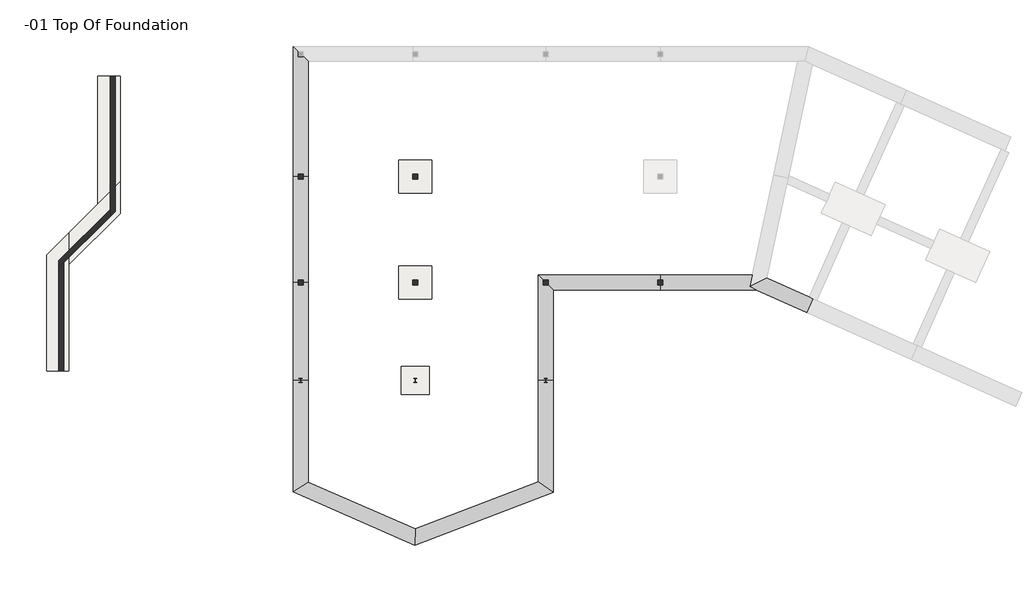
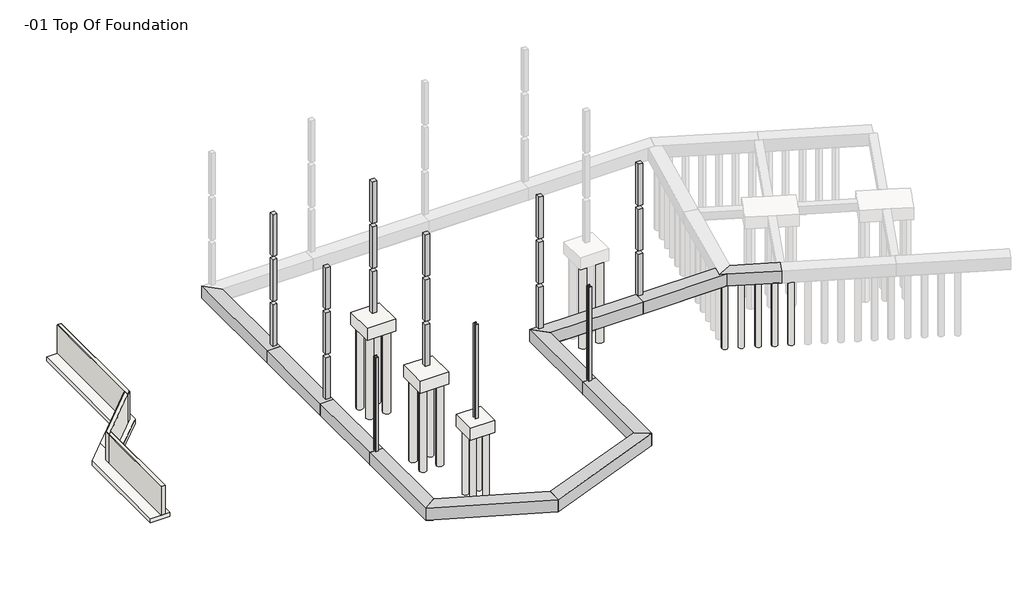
# One storey, part 1 of 6: 22 slabs, 11 beams, 9 columns, 3 footings, 3 walls.
"""IFC4 building model written with IfcOpenShell, lengths in millimetres."""

from ifc_helpers import new_model, si_unit, point, frame, frame_2d, origin, origin_with_axes, place, context, project, spatial, polyline, circle_curve, trimmed, segment, composite_curve, outline, extrude, faceted_brep, transform, mapped, element, save
from ifc_brep_helpers import plane_surface, cylinder_surface, revolved_surface, advanced_brep
from components import w_shapes_column_w10x33_27927fa3

model = new_model("IFC4")

# Units and contexts
model_context = context("Model", 3, world=origin())
ifc_project = project(units=[si_unit("LENGTHUNIT", "METRE", prefix="MILLI")], contexts=[model_context])

# Site, building, storey
site = spatial("IfcSite", under=ifc_project)
building = spatial("IfcBuilding", under=site)
storey = spatial("IfcBuildingStorey", under=building, Name="-01 Top Of Foundation", Elevation=-304.8)

# Beams
placement = place(None, origin())
element("IfcBeam", 1, ObjectType="Ring Beam : 16 x 32", at=placement, inside=storey, context=model_context, shape_type="AdvancedBrep", body=[
    advanced_brep(
    [(28526.2478532, -13729.7933987, -304.8), (31118.4126766, -14894.1882927, -304.8), (31350.1102376, -14998.2663415, -304.8), (31350.1102376, -14998.2663415, -1193.8), (28526.2478532, -13729.7933987, -1193.8), (27477.2581969, -14261.0066013, -304.8), (27903.7815965, -14452.6, -304.8), (30975.429262, -15832.377561, -304.8), (31339.7024327, -15021.4360976, -1219.2), (28497.1092516, -13744.549321, -1219.2), (30985.8370668, -15809.2078049, -1219.2), (27909.2244536, -14427.2, -1219.2), (27506.3967985, -14246.250679, -1219.2), (27822.9184202, -14085.9626691, -1219.2), (28185.4716207, -13902.3640554, -1219.2), (28732.559032, -14413.6326829, -1219.2), (29138.959032, -14413.6326829, -1219.2), (29663.4968045, -14831.8653659, -1219.2), (30069.8968045, -14831.8653659, -1219.2), (30594.4345769, -15250.0980488, -1219.2), (31000.8345769, -15250.0980488, -1219.2), (30975.429262, -15832.377561, -1193.8), (27903.7815965, -14452.6, -1193.8), (27477.2581969, -14261.0066013, -1193.8), (29138.959032, -14413.6326829, -1066.8), (28732.559032, -14413.6326829, -1066.8), (30069.8968045, -14831.8653659, -1066.8), (29663.4968045, -14831.8653659, -1066.8), (31000.8345769, -15250.0980488, -1066.8), (30594.4345769, -15250.0980488, -1066.8)],
    [
        (0, 1),
        (1, 2),
        (2, 3),
        (3, 4),
        (4, 0),
        (0, 5),
        (5, 6),
        (6, 7),
        (7, 2),
        (3, 8),
        (8, 9),
        (9, 4),
        (8, 10),
        (10, 11),
        (11, 12),
        (12, 13),
        (13, 14),
        (14, 9),
        (15, 16, circle_curve(frame((28935.759032, -14413.6326829, -1219.2), z_axis=(0.0, 0.0, 1.0), x_axis=(1.0, 0.0, 0.0)), 203.2)),
        (16, 15, circle_curve(frame((28935.759032, -14413.6326829, -1219.2), z_axis=(0.0, 0.0, 1.0), x_axis=(1.0, 0.0, 0.0)), 203.2)),
        (17, 18, circle_curve(frame((29866.6968045, -14831.8653659, -1219.2), z_axis=(0.0, 0.0, 1.0), x_axis=(1.0, 0.0, 0.0)), 203.2)),
        (18, 17, circle_curve(frame((29866.6968045, -14831.8653659, -1219.2), z_axis=(0.0, 0.0, 1.0), x_axis=(1.0, 0.0, 0.0)), 203.2)),
        (19, 20, circle_curve(frame((30797.6345769, -15250.0980488, -1219.2), z_axis=(0.0, 0.0, 1.0), x_axis=(1.0, 0.0, 0.0)), 203.2)),
        (20, 19, circle_curve(frame((30797.6345769, -15250.0980488, -1219.2), z_axis=(0.0, 0.0, 1.0), x_axis=(1.0, 0.0, 0.0)), 203.2)),
        (10, 21),
        (21, 22),
        (22, 23),
        (23, 12),
        (5, 23),
        (21, 7),
        (24, 25, circle_curve(frame((28935.759032, -14413.6326829, -1066.8), z_axis=(0.0, 0.0, -1.0), x_axis=(1.0, 0.0, 0.0)), 203.2)),
        (25, 24, circle_curve(frame((28935.759032, -14413.6326829, -1066.8), z_axis=(0.0, 0.0, -1.0), x_axis=(1.0, 0.0, 0.0)), 203.2)),
        (24, 16),
        (15, 25),
        (26, 27, circle_curve(frame((29866.6968045, -14831.8653659, -1066.8), z_axis=(0.0, 0.0, -1.0), x_axis=(1.0, 0.0, 0.0)), 203.2)),
        (27, 26, circle_curve(frame((29866.6968045, -14831.8653659, -1066.8), z_axis=(0.0, 0.0, -1.0), x_axis=(1.0, 0.0, 0.0)), 203.2)),
        (26, 18),
        (17, 27),
        (28, 29, circle_curve(frame((30797.6345769, -15250.0980488, -1066.8), z_axis=(0.0, 0.0, -1.0), x_axis=(1.0, 0.0, 0.0)), 203.2)),
        (29, 28, circle_curve(frame((30797.6345769, -15250.0980488, -1066.8), z_axis=(0.0, 0.0, -1.0), x_axis=(1.0, 0.0, 0.0)), 203.2)),
        (28, 20),
        (19, 29),
    ],
    [
        plane_surface(frame((28608.4763729, -13766.7302739, -304.8), z_axis=(0.40975609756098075, 0.9121951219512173, 0.0), x_axis=(0.9121951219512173, -0.40975609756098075, 0.0))),
        plane_surface(frame((28233.7953973, -14600.8414934, -304.8), z_axis=(0.0, 0.0, 1.0000000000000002), x_axis=(0.9121951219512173, -0.40975609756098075, 0.0))),
        plane_surface(frame((28608.4763729, -13766.7302739, -1193.8), z_axis=(0.28974131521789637, 0.645019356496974, -0.7071067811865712), x_axis=(0.9121951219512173, -0.40975609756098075, 0.0))),
        plane_surface(frame((28598.068568, -13789.90003, -1219.2), z_axis=(0.0, 0.0, -1.0000000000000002), x_axis=(0.9121951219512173, -0.40975609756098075, 0.0))),
        plane_surface(frame((28244.2032022, -14577.6717373, -1219.2), z_axis=(-0.2897413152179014, -0.6450193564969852, -0.7071067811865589), x_axis=(0.9121951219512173, -0.40975609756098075, 0.0))),
        plane_surface(frame((28233.7953973, -14600.8414934, -1193.8), z_axis=(-0.40975609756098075, -0.9121951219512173, 0.0), x_axis=(0.9121951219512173, -0.40975609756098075, 0.0))),
        plane_surface(frame((31162.7697498, -15415.3219512, -304.8), z_axis=(0.9121951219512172, -0.4097560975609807, 0.0), x_axis=(0.4097560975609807, 0.9121951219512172, 0.0))),
        plane_surface(frame((28526.2478532, -13729.7933987, -304.8), z_axis=(-0.451778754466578, 0.8921300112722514, 0.0), x_axis=(0.8921300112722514, 0.451778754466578, 0.0))),
        plane_surface(frame((29138.959032, -14413.6326829, -1066.8), z_axis=(0.0, 0.0, -1.0), x_axis=(0.0, 1.0, 0.0))),
        revolved_surface(polyline([(29138.959032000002, -14413.6326829, -1066.8000000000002), (29138.959032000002, -14413.6326829, -1219.1999999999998)]), (28935.759032, -14413.6326829, -6096.0), (0.0, 0.0, 1.0)),
        plane_surface(frame((30069.8968045, -14831.8653659, -1066.8), z_axis=(0.0, 0.0, -1.0), x_axis=(0.0, 1.0, 0.0))),
        revolved_surface(polyline([(30069.8968045, -14831.8653659, -1066.8000000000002), (30069.8968045, -14831.8653659, -1219.1999999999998)]), (29866.6968045, -14831.8653659, -6096.0), (0.0, 0.0, 1.0)),
        plane_surface(frame((31000.8345769, -15250.0980488, -1066.8), z_axis=(0.0, 0.0, -1.0), x_axis=(0.0, 1.0, 0.0))),
        revolved_surface(polyline([(31000.8345769, -15250.0980488, -1066.8000000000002), (31000.8345769, -15250.0980488, -1219.1999999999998)]), (30797.6345769, -15250.0980488, -6096.0), (0.0, 0.0, 1.0)),
    ],
    [
        (0, [[1, 2, 3, 4, 5]]),
        (1, [[-2, -1, 6, 7, 8, 9]]),
        (2, [[-4, 10, 11, 12]]),
        (3, [[-11, 13, 14, 15, 16, 17, 18], [19, 20], [21, 22], [23, 24]]),
        (4, [[-15, -14, 25, 26, 27, 28]]),
        (5, [[-8, -7, 29, -27, -26, 30]]),
        (6, [[-30, -25, -13, -10, -3, -9]]),
        (7, [[-6, -5, -12, -18, -17, -16, -28, -29]]),
        (8, [[31, 32]]),
        (9, [[-31, 33, -19, 34]]),
        (9, [[-32, -34, -20, -33]]),
        (10, [[35, 36]]),
        (11, [[-35, 37, -21, 38]]),
        (11, [[-36, -38, -22, -37]]),
        (12, [[39, 40]]),
        (13, [[-39, 41, -23, 42]]),
        (13, [[-40, -42, -24, -41]]),
    ],
),
])
element("IfcBeam", 2, ObjectType="Ring Beam : 16 x 32", at=placement, inside=storey, context=model_context, shape_type="Brep", body=[
    faceted_brep([(27632.1453257, -13538.2, -304.8), (27632.1453257, -13538.2, -1193.8), (22009.1, -13538.2, -1193.8), (22009.1, -13538.2, -304.8), (27477.2581969, -14261.0066013, -304.8), (27477.2581969, -14261.0066013, -1193.8), (22009.1, -14452.6, -304.8), (27903.7815965, -14452.6, -304.8), (27652.6790868, -13563.6, -1219.2), (22009.1, -13563.6, -1219.2), (27506.3967985, -14246.250679, -1219.2), (27909.2244536, -14427.2, -1219.2), (22009.1, -14427.2, -1219.2), (22009.1, -14452.6, -1193.8), (27903.7815965, -14452.6, -1193.8)], [[[0, 1, 2, 3]], [[1, 0, 4, 5]], [[4, 0, 3, 6, 7]], [[1, 8, 9, 2]], [[8, 10, 11, 12, 9]], [[13, 12, 11, 14]], [[6, 13, 14, 7]], [[8, 1, 5, 10]], [[5, 14, 11, 10]], [[14, 5, 4, 7]], [[6, 3, 2, 9, 12, 13]]]),
])
element("IfcBeam", 3, ObjectType="Ring Beam : 16 x 32", at=placement, inside=storey, context=model_context, shape_type="Brep", body=[
    faceted_brep([(14541.5, -20002.5, -304.8), (15455.9, -20002.5, -304.8), (15455.9, -14452.6, -304.8), (14541.5, -13538.2, -304.8), (14541.5, -20002.5, -1193.8), (14541.5, -13538.2, -1193.8), (14566.9, -20002.5, -1219.2), (14566.9, -13563.6, -1219.2), (15430.5, -20002.5, -1219.2), (15430.5, -14427.2, -1219.2), (15455.9, -20002.5, -1193.8), (15455.9, -14452.6, -1193.8)], [[[0, 1, 2, 3]], [[4, 0, 3, 5]], [[6, 4, 5, 7]], [[8, 6, 7, 9]], [[10, 8, 9, 11]], [[1, 10, 11, 2]], [[1, 0, 4, 6, 8, 10]], [[2, 11, 9, 7, 5, 3]]]),
])
element("IfcBeam", 4, ObjectType="Ring Beam : 16 x 32", at=placement, inside=storey, context=model_context, shape_type="Brep", body=[
    faceted_brep([(6999.0797986, -30090.7939803, -304.8), (15455.9, -26844.5248543, -304.8), (14541.5, -26216.0751457, -304.8), (7021.7202014, -29102.6481618, -304.8), (14541.5, -26216.0751457, -1193.8), (7021.7202014, -29102.6481618, -1193.8), (14566.9, -26233.5320821, -1219.2), (7021.0913013, -29130.0966568, -1219.2), (15430.5, -26827.0679179, -1219.2), (6999.7086987, -30063.3454854, -1219.2), (15455.9, -26844.5248543, -1193.8), (6999.0797986, -30090.7939803, -1193.8)], [[[0, 1, 2, 3]], [[3, 2, 4, 5]], [[5, 4, 6, 7]], [[7, 6, 8, 9]], [[9, 8, 10, 11]], [[1, 0, 11, 10]], [[1, 10, 8, 6, 4, 2]], [[0, 3, 5, 7, 9, 11]]]),
])
element("IfcBeam", 5, ObjectType="Ring Beam : 16 x 32", at=placement, inside=storey, context=model_context, shape_type="Brep", body=[
    faceted_brep([(-457.2, -26829.3404989, -304.8), (6999.0797986, -30090.7939803, -304.8), (7021.7202014, -29102.6481618, -304.8), (457.2, -26231.2595011, -304.8), (7021.7202014, -29102.6481618, -1193.8), (457.2, -26231.2595011, -1193.8), (7021.0913013, -29130.0966568, -1219.2), (431.8, -26247.8728622, -1219.2), (6999.7086987, -30063.3454854, -1219.2), (-431.8, -26812.7271378, -1219.2), (6999.0797986, -30090.7939803, -1193.8), (-457.2, -26829.3404989, -1193.8)], [[[0, 1, 2, 3]], [[3, 2, 4, 5]], [[5, 4, 6, 7]], [[7, 6, 8, 9]], [[9, 8, 10, 11]], [[1, 0, 11, 10]], [[1, 10, 8, 6, 4, 2]], [[0, 3, 5, 7, 9, 11]]]),
])
element("IfcBeam", 6, ObjectType="Ring Beam : 16 x 32", at=placement, inside=storey, context=model_context, shape_type="Brep", body=[
    faceted_brep([(-457.2, -20002.5, -304.8), (-457.2, -26723.3402351, -304.8), (-457.2, -26829.3404989, -304.8), (457.2, -26231.2595011, -304.8), (457.2, -20002.5, -304.8), (457.2, -26231.2595011, -1193.8), (457.2, -20002.5, -1193.8), (431.8, -26247.8728622, -1219.2), (431.8, -20002.5, -1219.2), (-431.8, -26812.7271378, -1219.2), (-431.8, -20002.5, -1219.2), (-457.2, -26829.3404989, -1193.8), (-457.2, -20002.5, -1193.8)], [[[0, 1, 2, 3, 4]], [[4, 3, 5, 6]], [[6, 5, 7, 8]], [[8, 7, 9, 10]], [[10, 9, 11, 12]], [[2, 1, 0, 12, 11]], [[2, 11, 9, 7, 5, 3]], [[0, 4, 6, 8, 10, 12]]]),
])
element("IfcBeam", 7, ObjectType="Ring Beam : 16 x 32", at=placement, inside=storey, context=model_context, shape_type="Brep", body=[
    faceted_brep([(457.2, -457.2, -304.8), (-457.2, 457.2, -304.8), (-457.2, -7505.7, -304.8), (457.2, -7505.7, -304.8), (457.2, -457.2, -1193.8), (457.2, -7505.7, -1193.8), (431.8, -431.8, -1219.2), (431.8, -7505.7, -1219.2), (-431.8, 431.8, -1219.2), (-431.8, -7505.7, -1219.2), (-457.2, 457.2, -1193.8), (-457.2, -7505.7, -1193.8)], [[[0, 1, 2, 3]], [[4, 0, 3, 5]], [[6, 4, 5, 7]], [[8, 6, 7, 9]], [[10, 8, 9, 11]], [[1, 10, 11, 2]], [[1, 0, 4, 6, 8, 10]], [[2, 11, 9, 7, 5, 3]]]),
])
element("IfcBeam", 8, ObjectType="Ring Beam : 16 x 32", at=placement, inside=storey, context=model_context, shape_type="SweptSolid", body=[
    extrude(outline(polyline([(-304.8, -457.2), (-1193.8, -457.2), (-1219.2, -431.8), (-1219.2, 431.8), (-1193.8, 457.2), (-304.8, 457.2), (-304.8, -457.2)])), frame((0.0, -13995.4, 0.0), z_axis=(0.0, 1.0, 0.0), x_axis=(0.0, 0.0, 1.0)), (0.0, 0.0, 1.0), 6489.7),
])
element("IfcBeam", 9, ObjectType="Ring Beam : 16 x 32", at=placement, inside=storey, context=model_context, shape_type="SweptSolid", body=[
    extrude(outline(polyline([(-304.8, -457.2), (-1193.8, -457.2), (-1219.2, -431.8), (-1219.2, 431.8), (-1193.8, 457.2), (-304.8, 457.2), (-304.8, -457.2)])), frame((0.0, -20002.5, 0.0), z_axis=(0.0, 1.0, 0.0), x_axis=(0.0, 0.0, 1.0)), (0.0, 0.0, 1.0), 6007.1),
])
element("IfcBeam", 10, ObjectType="Ring Beam : 16 x 32", at=placement, inside=storey, context=model_context, shape_type="Brep", body=[
    faceted_brep([(14541.5, -26216.0751457, -304.8), (15455.9, -26844.5248543, -304.8), (15455.9, -26723.3402351, -304.8), (15455.9, -20002.5, -304.8), (14541.5, -20002.5, -304.8), (14541.5, -26216.0751457, -1193.8), (14541.5, -20002.5, -1193.8), (14566.9, -26233.5320821, -1219.2), (14566.9, -20002.5, -1219.2), (15430.5, -26827.0679179, -1219.2), (15430.5, -20002.5, -1219.2), (15455.9, -26844.5248543, -1193.8), (15455.9, -20002.5, -1193.8)], [[[0, 1, 2, 3, 4]], [[5, 0, 4, 6]], [[7, 5, 6, 8]], [[9, 7, 8, 10]], [[11, 9, 10, 12]], [[1, 11, 12, 3, 2]], [[1, 0, 5, 7, 9, 11]], [[3, 12, 10, 8, 6, 4]]]),
])
element("IfcBeam", 11, ObjectType="Ring Beam : 16 x 32", at=placement, inside=storey, context=model_context, shape_type="Brep", body=[
    faceted_brep([(22009.1, -13538.2, -304.8), (14541.5, -13538.2, -304.8), (15455.9, -14452.6, -304.8), (22009.1, -14452.6, -304.8), (15455.9, -14452.6, -1193.8), (22009.1, -14452.6, -1193.8), (15430.5, -14427.2, -1219.2), (22009.1, -14427.2, -1219.2), (14566.9, -13563.6, -1219.2), (22009.1, -13563.6, -1219.2), (14541.5, -13538.2, -1193.8), (22009.1, -13538.2, -1193.8)], [[[0, 1, 2, 3]], [[3, 2, 4, 5]], [[5, 4, 6, 7]], [[7, 6, 8, 9]], [[9, 8, 10, 11]], [[1, 0, 11, 10]], [[1, 10, 8, 6, 4, 2]], [[0, 3, 5, 7, 9, 11]]]),
])

# Columns
element("IfcColumn", 12, ObjectType="Concrete-Rectangular-Column : 12 x 12", at=placement, inside=storey, context=model_context, shape_type="SweptSolid", body=[
    extrude(outline(polyline([(7162.8, -7353.3), (7162.8, -7658.1), (6858.0, -7658.1), (6858.0, -7353.3), (7162.8, -7353.3)])), frame((0.0, 0.0, 6705.6), z_axis=(0.0, 0.0, 1.0), x_axis=(1.0, 0.0, 0.0)), (0.0, 0.0, 1.0), 3098.8),
    extrude(outline(polyline([(7162.8, -7353.3), (7162.8, -7658.1), (6858.0, -7658.1), (6858.0, -7353.3), (7162.8, -7353.3)])), origin_with_axes(), (0.0, 0.0, 1.0), 3098.8),
    extrude(outline(polyline([(7162.8, -7353.3), (7162.8, -7658.1), (6858.0, -7658.1), (6858.0, -7353.3), (7162.8, -7353.3)])), frame((0.0, 0.0, 3352.8), z_axis=(0.0, 0.0, 1.0), x_axis=(1.0, 0.0, 0.0)), (0.0, 0.0, 1.0), 3098.8),
])
element("IfcColumn", 13, ObjectType="Concrete-Rectangular-Column : 12 x 12", at=placement, inside=storey, context=model_context, shape_type="SweptSolid", body=[
    extrude(outline(polyline([(152.4, -7353.3), (152.4, -7658.1), (-152.4, -7658.1), (-152.4, -7353.3), (152.4, -7353.3)])), frame((0.0, 0.0, 6705.6), z_axis=(0.0, 0.0, 1.0), x_axis=(1.0, 0.0, 0.0)), (0.0, 0.0, 1.0), 3098.8),
    extrude(outline(polyline([(152.4, -7353.3), (152.4, -7658.1), (-152.4, -7658.1), (-152.4, -7353.3), (152.4, -7353.3)])), origin_with_axes(), (0.0, 0.0, 1.0), 3098.8),
    extrude(outline(polyline([(152.4, -7353.3), (152.4, -7658.1), (-152.4, -7658.1), (-152.4, -7353.3), (152.4, -7353.3)])), frame((0.0, 0.0, 3352.8), z_axis=(0.0, 0.0, 1.0), x_axis=(1.0, 0.0, 0.0)), (0.0, 0.0, 1.0), 3098.8),
])
element("IfcColumn", 14, ObjectType="Concrete-Rectangular-Column : 12 x 12", at=placement, inside=storey, context=model_context, shape_type="Brep", body=[
    faceted_brep([(152.4, -14147.8, 6705.6), (152.4, -13843.0, 6705.6), (152.4, -13843.0, 9804.4), (152.4, -14147.8, 9804.4), (-152.4, -14147.8, 6705.6), (-152.4, -14147.8, 9804.4), (-152.4, -13843.0, 6705.6), (-152.4, -13843.0, 9804.4)], [[[0, 1, 2, 3]], [[4, 0, 3, 5]], [[6, 4, 5, 7]], [[1, 6, 7, 2]], [[1, 0, 4, 6]], [[3, 2, 7, 5]]]),
    faceted_brep([(152.4, -13843.0, 0.0), (152.4, -14147.8, 0.0), (-152.4, -14147.8, 0.0), (-152.4, -13843.0, 0.0), (152.4, -14147.8, 3098.8), (-152.4, -14147.8, 3098.8), (152.4, -13843.0, 3098.8), (-152.4, -13843.0, 3098.8)], [[[0, 1, 2, 3]], [[2, 1, 4, 5]], [[4, 6, 7, 5]], [[1, 0, 6, 4]], [[3, 2, 5, 7]], [[0, 3, 7, 6]]]),
    faceted_brep([(152.4, -14147.8, 3352.8), (-152.4, -14147.8, 3352.8), (-152.4, -13855.7, 3352.8), (-152.4, -13843.0, 3352.8), (152.4, -13843.0, 3352.8), (152.4, -14147.8, 6451.6), (152.4, -13843.0, 6451.6), (-152.4, -13843.0, 6451.6), (-152.4, -14147.8, 6451.6)], [[[0, 1, 2, 3, 4]], [[5, 6, 7, 8]], [[0, 4, 6, 5]], [[1, 0, 5, 8]], [[3, 2, 1, 8, 7]], [[4, 3, 7, 6]]]),
])
element("IfcColumn", 15, ObjectType="Concrete-Rectangular-Column : 12 x 12", at=placement, inside=storey, context=model_context, shape_type="SweptSolid", body=[
    extrude(outline(polyline([(15151.1, -13843.0), (15151.1, -14147.8), (14846.3, -14147.8), (14846.3, -13843.0), (15151.1, -13843.0)])), frame((0.0, 0.0, 6705.6), z_axis=(0.0, 0.0, 1.0), x_axis=(1.0, 0.0, 0.0)), (0.0, 0.0, 1.0), 3098.8),
    extrude(outline(polyline([(15151.1, -13843.0), (15151.1, -14147.8), (14846.3, -14147.8), (14846.3, -13843.0), (15151.1, -13843.0)])), origin_with_axes(), (0.0, 0.0, 1.0), 3098.8),
    extrude(outline(polyline([(15151.1, -13843.0), (15151.1, -14147.8), (14846.3, -14147.8), (14846.3, -13843.0), (15151.1, -13843.0)])), frame((0.0, 0.0, 3352.8), z_axis=(0.0, 0.0, 1.0), x_axis=(1.0, 0.0, 0.0)), (0.0, 0.0, 1.0), 3098.8),
])
element("IfcColumn", 16, ObjectType="Concrete-Rectangular-Column : 12 x 12", at=placement, inside=storey, context=model_context, shape_type="SweptSolid", body=[
    extrude(outline(polyline([(22161.5, -13843.0), (22161.5, -14147.8), (21856.7, -14147.8), (21856.7, -13843.0), (22161.5, -13843.0)])), frame((0.0, 0.0, 6705.6), z_axis=(0.0, 0.0, 1.0), x_axis=(1.0, 0.0, 0.0)), (0.0, 0.0, 1.0), 3098.8),
    extrude(outline(polyline([(22161.5, -13843.0), (22161.5, -14147.8), (21856.7, -14147.8), (21856.7, -13843.0), (22161.5, -13843.0)])), origin_with_axes(), (0.0, 0.0, 1.0), 3098.8),
    extrude(outline(polyline([(22161.5, -13843.0), (22161.5, -14147.8), (21856.7, -14147.8), (21856.7, -13843.0), (22161.5, -13843.0)])), frame((0.0, 0.0, 3352.8), z_axis=(0.0, 0.0, 1.0), x_axis=(1.0, 0.0, 0.0)), (0.0, 0.0, 1.0), 3098.8),
])
element("IfcColumn", 17, ObjectType="Concrete-Rectangular-Column : 12 x 12", at=placement, inside=storey, context=model_context, shape_type="SweptSolid", body=[
    extrude(outline(polyline([(7162.8, -13843.0), (7162.8, -14147.8), (6858.0, -14147.8), (6858.0, -13843.0), (7162.8, -13843.0)])), frame((0.0, 0.0, 6705.6), z_axis=(0.0, 0.0, 1.0), x_axis=(1.0, 0.0, 0.0)), (0.0, 0.0, 1.0), 3098.8),
    extrude(outline(polyline([(7162.8, -13843.0), (7162.8, -14147.8), (6858.0, -14147.8), (6858.0, -13843.0), (7162.8, -13843.0)])), origin_with_axes(), (0.0, 0.0, 1.0), 3098.8),
    extrude(outline(polyline([(7162.8, -14147.8), (6858.0, -14147.8), (6858.0, -13843.0), (7162.8, -13843.0), (7162.8, -14147.8)])), frame((0.0, 0.0, 3352.8), z_axis=(0.0, 0.0, 1.0), x_axis=(1.0, 0.0, 0.0)), (0.0, 0.0, 1.0), 3098.8),
])
w_shapes_column_w10x33_shape = w_shapes_column_w10x33_27927fa3(model_context)
element("IfcColumn", 18, ObjectType="W Shapes-Column : W10X33", at=placement, inside=storey, context=model_context, shape_type="MappedRepresentation", body=[
    mapped(w_shapes_column_w10x33_shape, transform((0.0, -20002.5, 0.0), x_axis=(1.0, 0.0, 0.0), y_axis=(0.0, 1.0, 0.0), z_axis=(0.0, 0.0, 1.0))),
])
element("IfcColumn", 19, ObjectType="W Shapes-Column : W10X33", at=placement, inside=storey, context=model_context, shape_type="MappedRepresentation", body=[
    mapped(w_shapes_column_w10x33_shape, transform((7010.4, -20002.5, 0.0), x_axis=(1.0, 0.0, 0.0), y_axis=(0.0, 1.0, 0.0), z_axis=(0.0, 0.0, 1.0))),
])
element("IfcColumn", 20, ObjectType="W Shapes-Column : W10X33", at=placement, inside=storey, context=model_context, shape_type="MappedRepresentation", body=[
    mapped(w_shapes_column_w10x33_shape, transform((14998.7, -20002.5, 0.0), x_axis=(1.0, 0.0, 0.0), y_axis=(0.0, 1.0, 0.0), z_axis=(0.0, 0.0, 1.0))),
])

# Footings
element("IfcFooting", 21, ObjectType="Bearing Footing - 36\" x 12\"", at=placement, inside=storey, context=model_context, shape_type="Brep", body=[
    faceted_brep([(-14181.4784596, -19412.7293915, -304.8), (-15553.0784596, -19412.7293915, -304.8), (-15553.0784596, -19412.7293915, -609.6), (-14181.4784596, -19412.7293915, -609.6), (-15553.0784596, -12328.3725101, -304.8), (-14181.4784596, -12896.5078323, -304.8), (-14181.4784596, -10956.7725101, -304.8), (-14181.4784596, -10956.7725101, -609.6), (-14181.4784596, -12896.5078323, -609.6), (-15553.0784596, -12328.3725101, -609.6)], [[[0, 1, 2, 3]], [[4, 1, 0, 5, 6]], [[7, 6, 5, 0, 3, 8]], [[9, 7, 8, 3, 2]], [[4, 9, 2, 1]], [[4, 6, 7, 9]]]),
])
element("IfcFooting", 22, ObjectType="Bearing Footing - 36\" x 12\"", at=placement, inside=storey, context=model_context, shape_type="Brep", body=[
    faceted_brep([(-11056.3493295, -9771.3787021, -304.8), (-11056.3493295, -7831.64338, -304.8), (-12427.9493295, -9203.24338, -304.8), (-14181.4784596, -10956.7725101, -304.8), (-14181.4784596, -12896.5078323, -304.8), (-11056.3493295, -9771.3787021, -609.6), (-14181.4784596, -12896.5078323, -609.6), (-11056.3493295, -7831.64338, -609.6), (-14181.4784596, -10956.7725101, -609.6), (-12427.9493295, -9203.24338, -609.6)], [[[0, 1, 2, 3, 4]], [[5, 0, 4, 6]], [[7, 5, 6, 8, 9]], [[1, 7, 9, 8, 3, 2]], [[4, 3, 8, 6]], [[1, 0, 5, 7]]]),
])
element("IfcFooting", 23, ObjectType="Bearing Footing - 36\" x 12\"", at=placement, inside=storey, context=model_context, shape_type="SweptSolid", body=[
    extrude(outline(polyline([(-12427.9493295, -1352.4002614), (-11056.3493295, -1352.4002614), (-11056.3493295, -7831.64338), (-12427.9493295, -9203.24338), (-12427.9493295, -1352.4002614)])), frame((0.0, 0.0, -609.6), z_axis=(0.0, 0.0, 1.0), x_axis=(1.0, 0.0, 0.0)), (0.0, 0.0, 1.0), 304.8),
])

# Slabs
element("IfcSlab", 24, ObjectType="Pile Cap-4 Pile : 68\"x68\"x35\"", at=placement, inside=storey, context=model_context, shape_type="SweptSolid", body=[
    extrude(outline(polyline([(7874.0, -19138.9), (7874.0, -20866.1), (6146.8, -20866.1), (6146.8, -19138.9), (7874.0, -19138.9)])), frame((0.0, 0.0, -1193.8), z_axis=(0.0, 0.0, 1.0), x_axis=(1.0, 0.0, 0.0)), (0.0, 0.0, 1.0), 889.0),
])
element("IfcSlab", 25, ObjectType="Pile Cap-4 Pile : 79\"x79\"x35\"", at=placement, inside=storey, context=model_context, shape_type="SweptSolid", body=[
    extrude(outline(polyline([(8013.7, -6502.4), (8013.7, -8509.0), (6007.1, -8509.0), (6007.1, -6502.4), (8013.7, -6502.4)])), frame((0.0, 0.0, -1193.8), z_axis=(0.0, 0.0, 1.0), x_axis=(1.0, 0.0, 0.0)), (0.0, 0.0, 1.0), 889.0),
])
element("IfcSlab", 26, ObjectType="Pile Cap-4 Pile : 79\"x79\"x35\"", at=placement, inside=storey, context=model_context, shape_type="SweptSolid", body=[
    extrude(outline(polyline([(8013.7, -12992.1), (8013.7, -14998.7), (6007.1, -14998.7), (6007.1, -12992.1), (8013.7, -12992.1)])), frame((0.0, 0.0, -1193.8), z_axis=(0.0, 0.0, 1.0), x_axis=(1.0, 0.0, 0.0)), (0.0, 0.0, 1.0), 889.0),
])
element("IfcSlab", 27, ObjectType="Pile-Steel Pipe : 20\" Diameter", at=placement, inside=storey, context=model_context, shape_type="SweptSolid", body=[
    extrude(outline(composite_curve([segment(trimmed(circle_curve(frame_2d((21412.2, -8102.6)), 254.0), [point((21158.2, -8102.6))], [point((21666.2, -8102.6))], False, "CARTESIAN"), True, "CONTINUOUS"), segment(trimmed(circle_curve(frame_2d((21412.2, -8102.6)), 254.0), [point((21666.2, -8102.6))], [point((21158.2, -8102.6))], False, "CARTESIAN"), True, "CONTINUOUS")], self_intersect=False)), frame((0.0, 0.0, -7289.8), z_axis=(0.0, 0.0, 1.0), x_axis=(1.0, 0.0, 0.0)), (0.0, 0.0, 1.0), 6096.0),
])
element("IfcSlab", 28, ObjectType="Pile-Steel Pipe : 20\" Diameter", at=placement, inside=storey, context=model_context, shape_type="SweptSolid", body=[
    extrude(outline(composite_curve([segment(trimmed(circle_curve(frame_2d((22606.0, -8102.6)), 254.0), [point((22352.0, -8102.6))], [point((22860.0, -8102.6))], False, "CARTESIAN"), True, "CONTINUOUS"), segment(trimmed(circle_curve(frame_2d((22606.0, -8102.6)), 254.0), [point((22860.0, -8102.6))], [point((22352.0, -8102.6))], False, "CARTESIAN"), True, "CONTINUOUS")], self_intersect=False)), frame((0.0, 0.0, -7289.8), z_axis=(0.0, 0.0, 1.0), x_axis=(1.0, 0.0, 0.0)), (0.0, 0.0, 1.0), 6096.0),
])
element("IfcSlab", 29, ObjectType="Pile-Steel Pipe : 20\" Diameter", at=placement, inside=storey, context=model_context, shape_type="SweptSolid", body=[
    extrude(outline(composite_curve([segment(trimmed(circle_curve(frame_2d((6413.5, -6908.8)), 254.0), [point((6159.5, -6908.8))], [point((6667.5, -6908.8))], False, "CARTESIAN"), True, "CONTINUOUS"), segment(trimmed(circle_curve(frame_2d((6413.5, -6908.8)), 254.0), [point((6667.5, -6908.8))], [point((6159.5, -6908.8))], False, "CARTESIAN"), True, "CONTINUOUS")], self_intersect=False)), frame((0.0, 0.0, -7289.8), z_axis=(0.0, 0.0, 1.0), x_axis=(1.0, 0.0, 0.0)), (0.0, 0.0, 1.0), 6096.0),
])
element("IfcSlab", 30, ObjectType="Pile-Steel Pipe : 20\" Diameter", at=placement, inside=storey, context=model_context, shape_type="SweptSolid", body=[
    extrude(outline(composite_curve([segment(trimmed(circle_curve(frame_2d((6413.5, -8102.6)), 254.0), [point((6159.5, -8102.6))], [point((6667.5, -8102.6))], False, "CARTESIAN"), True, "CONTINUOUS"), segment(trimmed(circle_curve(frame_2d((6413.5, -8102.6)), 254.0), [point((6667.5, -8102.6))], [point((6159.5, -8102.6))], False, "CARTESIAN"), True, "CONTINUOUS")], self_intersect=False)), frame((0.0, 0.0, -7289.8), z_axis=(0.0, 0.0, 1.0), x_axis=(1.0, 0.0, 0.0)), (0.0, 0.0, 1.0), 6096.0),
])
element("IfcSlab", 31, ObjectType="Pile-Steel Pipe : 20\" Diameter", at=placement, inside=storey, context=model_context, shape_type="SweptSolid", body=[
    extrude(outline(composite_curve([segment(trimmed(circle_curve(frame_2d((7607.3, -8102.6)), 254.0), [point((7353.3, -8102.6))], [point((7861.3, -8102.6))], False, "CARTESIAN"), True, "CONTINUOUS"), segment(trimmed(circle_curve(frame_2d((7607.3, -8102.6)), 254.0), [point((7861.3, -8102.6))], [point((7353.3, -8102.6))], False, "CARTESIAN"), True, "CONTINUOUS")], self_intersect=False)), frame((0.0, 0.0, -7289.8), z_axis=(0.0, 0.0, 1.0), x_axis=(1.0, 0.0, 0.0)), (0.0, 0.0, 1.0), 6096.0),
])
element("IfcSlab", 32, ObjectType="Pile-Steel Pipe : 20\" Diameter", at=placement, inside=storey, context=model_context, shape_type="SweptSolid", body=[
    extrude(outline(composite_curve([segment(trimmed(circle_curve(frame_2d((7607.3, -6908.8)), 254.0), [point((7353.3, -6908.8))], [point((7861.3, -6908.8))], False, "CARTESIAN"), True, "CONTINUOUS"), segment(trimmed(circle_curve(frame_2d((7607.3, -6908.8)), 254.0), [point((7861.3, -6908.8))], [point((7353.3, -6908.8))], False, "CARTESIAN"), True, "CONTINUOUS")], self_intersect=False)), frame((0.0, 0.0, -7289.8), z_axis=(0.0, 0.0, 1.0), x_axis=(1.0, 0.0, 0.0)), (0.0, 0.0, 1.0), 6096.0),
])
element("IfcSlab", 33, ObjectType="Pile-Steel Pipe : 20\" Diameter", at=placement, inside=storey, context=model_context, shape_type="SweptSolid", body=[
    extrude(outline(composite_curve([segment(trimmed(circle_curve(frame_2d((6413.5, -13398.5)), 254.0), [point((6159.5, -13398.5))], [point((6667.5, -13398.5))], False, "CARTESIAN"), True, "CONTINUOUS"), segment(trimmed(circle_curve(frame_2d((6413.5, -13398.5)), 254.0), [point((6667.5, -13398.5))], [point((6159.5, -13398.5))], False, "CARTESIAN"), True, "CONTINUOUS")], self_intersect=False)), frame((0.0, 0.0, -7289.8), z_axis=(0.0, 0.0, 1.0), x_axis=(1.0, 0.0, 0.0)), (0.0, 0.0, 1.0), 6096.0),
])
element("IfcSlab", 34, ObjectType="Pile-Steel Pipe : 20\" Diameter", at=placement, inside=storey, context=model_context, shape_type="SweptSolid", body=[
    extrude(outline(composite_curve([segment(trimmed(circle_curve(frame_2d((6413.5, -14592.3)), 254.0), [point((6159.5, -14592.3))], [point((6667.5, -14592.3))], False, "CARTESIAN"), True, "CONTINUOUS"), segment(trimmed(circle_curve(frame_2d((6413.5, -14592.3)), 254.0), [point((6667.5, -14592.3))], [point((6159.5, -14592.3))], False, "CARTESIAN"), True, "CONTINUOUS")], self_intersect=False)), frame((0.0, 0.0, -7289.8), z_axis=(0.0, 0.0, 1.0), x_axis=(1.0, 0.0, 0.0)), (0.0, 0.0, 1.0), 6096.0),
])
element("IfcSlab", 35, ObjectType="Pile-Steel Pipe : 20\" Diameter", at=placement, inside=storey, context=model_context, shape_type="SweptSolid", body=[
    extrude(outline(composite_curve([segment(trimmed(circle_curve(frame_2d((7607.3, -14592.3)), 254.0), [point((7353.3, -14592.3))], [point((7861.3, -14592.3))], False, "CARTESIAN"), True, "CONTINUOUS"), segment(trimmed(circle_curve(frame_2d((7607.3, -14592.3)), 254.0), [point((7861.3, -14592.3))], [point((7353.3, -14592.3))], False, "CARTESIAN"), True, "CONTINUOUS")], self_intersect=False)), frame((0.0, 0.0, -7289.8), z_axis=(0.0, 0.0, 1.0), x_axis=(1.0, 0.0, 0.0)), (0.0, 0.0, 1.0), 6096.0),
])
element("IfcSlab", 36, ObjectType="Pile-Steel Pipe : 20\" Diameter", at=placement, inside=storey, context=model_context, shape_type="SweptSolid", body=[
    extrude(outline(composite_curve([segment(trimmed(circle_curve(frame_2d((7607.3, -13398.5)), 254.0), [point((7353.3, -13398.5))], [point((7861.3, -13398.5))], False, "CARTESIAN"), True, "CONTINUOUS"), segment(trimmed(circle_curve(frame_2d((7607.3, -13398.5)), 254.0), [point((7861.3, -13398.5))], [point((7353.3, -13398.5))], False, "CARTESIAN"), True, "CONTINUOUS")], self_intersect=False)), frame((0.0, 0.0, -7289.8), z_axis=(0.0, 0.0, 1.0), x_axis=(1.0, 0.0, 0.0)), (0.0, 0.0, 1.0), 6096.0),
])
element("IfcSlab", 37, ObjectType="Round In Situ Concrete Pile : 16\" Diameter", at=placement, inside=storey, context=model_context, shape_type="AdvancedBrep", body=[
    advanced_brep(
    [(27801.6212595, -13995.4, -1066.8), (27822.9184202, -14085.9626691, -1066.8), (28185.4716207, -13902.3640554, -1066.8), (27801.6212595, -13995.4, -6096.0), (28208.0212595, -13995.4, -6096.0), (28208.0212595, -13995.4, -1219.2), (27822.9184202, -14085.9626691, -1219.2), (28185.4716207, -13902.3640554, -1219.2)],
    [
        (0, 1, circle_curve(frame((28004.8212595, -13995.4, -1066.8), z_axis=(0.0, 0.0, 1.0), x_axis=(1.0, 0.0, 0.0)), 203.2)),
        (1, 2),
        (2, 0, circle_curve(frame((28004.8212595, -13995.4, -1066.8), z_axis=(0.0, 0.0, 1.0), x_axis=(1.0, 0.0, 0.0)), 203.2)),
        (3, 4, circle_curve(frame((28004.8212595, -13995.4, -6096.0), z_axis=(0.0, 0.0, -1.0), x_axis=(1.0, 0.0, 0.0)), 203.2)),
        (4, 3, circle_curve(frame((28004.8212595, -13995.4, -6096.0), z_axis=(0.0, 0.0, -1.0), x_axis=(1.0, 0.0, 0.0)), 203.2)),
        (4, 5),
        (5, 6, circle_curve(frame((28004.8212595, -13995.4, -1219.2), z_axis=(0.0, 0.0, -1.0), x_axis=(1.0, 0.0, 0.0)), 203.2)),
        (6, 1),
        (0, 3),
        (2, 7),
        (7, 5, circle_curve(frame((28004.8212595, -13995.4, -1219.2), z_axis=(0.0, 0.0, -1.0), x_axis=(1.0, 0.0, 0.0)), 203.2)),
        (7, 6),
    ],
    [
        plane_surface(frame((28208.0212595, -13995.4, -1066.8), z_axis=(0.0, 0.0, 1.0), x_axis=(0.0, 1.0, 0.0))),
        plane_surface(frame((28208.0212595, -13995.4, -6096.0), z_axis=(0.0, 0.0, -1.0), x_axis=(0.0, -1.0, 0.0))),
        cylinder_surface(frame((28004.8212595, -13995.4, -6096.0), z_axis=(0.0, 0.0, 1.0), x_axis=(1.0, 0.0, 0.0)), 203.2),
        plane_surface(frame((28598.068568, -13789.90003, -1219.2), z_axis=(0.0, 0.0, 1.0000000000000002), x_axis=(0.9121951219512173, -0.40975609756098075, 0.0))),
        plane_surface(frame((28526.2478532, -13729.7933987, -304.8), z_axis=(0.451778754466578, -0.8921300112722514, 0.0), x_axis=(0.8921300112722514, 0.451778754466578, 0.0))),
    ],
    [
        (0, [[1, 2, 3]]),
        (1, [[4, 5]]),
        (2, [[-5, 6, 7, 8, -1, 9]]),
        (2, [[-4, -9, -3, 10, 11, -6]]),
        (3, [[12, -7, -11]]),
        (4, [[-12, -10, -2, -8]]),
    ],
),
])
element("IfcSlab", 38, ObjectType="Round In Situ Concrete Pile : 16\" Diameter", at=placement, inside=storey, context=model_context, shape_type="SweptSolid", body=[
    extrude(outline(composite_curve([segment(trimmed(circle_curve(frame_2d((28935.759032, -14413.6326829)), 203.2), [point((28732.559032, -14413.6326829))], [point((29138.959032, -14413.6326829))], False, "CARTESIAN"), True, "CONTINUOUS"), segment(trimmed(circle_curve(frame_2d((28935.759032, -14413.6326829)), 203.2), [point((29138.959032, -14413.6326829))], [point((28732.559032, -14413.6326829))], False, "CARTESIAN"), True, "CONTINUOUS")], self_intersect=False)), frame((0.0, 0.0, -6096.0), z_axis=(0.0, 0.0, 1.0), x_axis=(1.0, 0.0, 0.0)), (0.0, 0.0, 1.0), 5029.2),
])
element("IfcSlab", 39, ObjectType="Round In Situ Concrete Pile : 16\" Diameter", at=placement, inside=storey, context=model_context, shape_type="SweptSolid", body=[
    extrude(outline(composite_curve([segment(trimmed(circle_curve(frame_2d((29866.6968045, -14831.8653659)), 203.2), [point((29663.4968045, -14831.8653659))], [point((30069.8968045, -14831.8653659))], False, "CARTESIAN"), True, "CONTINUOUS"), segment(trimmed(circle_curve(frame_2d((29866.6968045, -14831.8653659)), 203.2), [point((30069.8968045, -14831.8653659))], [point((29663.4968045, -14831.8653659))], False, "CARTESIAN"), True, "CONTINUOUS")], self_intersect=False)), frame((0.0, 0.0, -6096.0), z_axis=(0.0, 0.0, 1.0), x_axis=(1.0, 0.0, 0.0)), (0.0, 0.0, 1.0), 5029.2),
])
element("IfcSlab", 40, ObjectType="Round In Situ Concrete Pile : 16\" Diameter", at=placement, inside=storey, context=model_context, shape_type="SweptSolid", body=[
    extrude(outline(composite_curve([segment(trimmed(circle_curve(frame_2d((30797.6345769, -15250.0980488)), 203.2), [point((30594.4345769, -15250.0980488))], [point((31000.8345769, -15250.0980488))], False, "CARTESIAN"), True, "CONTINUOUS"), segment(trimmed(circle_curve(frame_2d((30797.6345769, -15250.0980488)), 203.2), [point((31000.8345769, -15250.0980488))], [point((30594.4345769, -15250.0980488))], False, "CARTESIAN"), True, "CONTINUOUS")], self_intersect=False)), frame((0.0, 0.0, -6096.0), z_axis=(0.0, 0.0, 1.0), x_axis=(1.0, 0.0, 0.0)), (0.0, 0.0, 1.0), 5029.2),
])
element("IfcSlab", 41, ObjectType="Round In Situ Concrete Pile : 16\" Diameter", at=placement, inside=storey, context=model_context, shape_type="SweptSolid", body=[
    extrude(outline(composite_curve([segment(trimmed(circle_curve(frame_2d((31728.5723494, -15668.3307317)), 203.2), [point((31525.3723494, -15668.3307317))], [point((31931.7723494, -15668.3307317))], False, "CARTESIAN"), True, "CONTINUOUS"), segment(trimmed(circle_curve(frame_2d((31728.5723494, -15668.3307317)), 203.2), [point((31931.7723494, -15668.3307317))], [point((31525.3723494, -15668.3307317))], False, "CARTESIAN"), True, "CONTINUOUS")], self_intersect=False)), frame((0.0, 0.0, -6096.0), z_axis=(0.0, 0.0, 1.0), x_axis=(1.0, 0.0, 0.0)), (0.0, 0.0, 1.0), 5029.2),
])
element("IfcSlab", 42, ObjectType="Round In Situ Concrete Pile : 16\" Diameter", at=placement, inside=storey, context=model_context, shape_type="SweptSolid", body=[
    extrude(outline(composite_curve([segment(trimmed(circle_curve(frame_2d((6553.2, -19545.3)), 203.2), [point((6350.0, -19545.3))], [point((6756.4, -19545.3))], False, "CARTESIAN"), True, "CONTINUOUS"), segment(trimmed(circle_curve(frame_2d((6553.2, -19545.3)), 203.2), [point((6756.4, -19545.3))], [point((6350.0, -19545.3))], False, "CARTESIAN"), True, "CONTINUOUS")], self_intersect=False)), frame((0.0, 0.0, -6070.6), z_axis=(0.0, 0.0, 1.0), x_axis=(1.0, 0.0, 0.0)), (0.0, 0.0, 1.0), 4876.8),
])
element("IfcSlab", 43, ObjectType="Round In Situ Concrete Pile : 16\" Diameter", at=placement, inside=storey, context=model_context, shape_type="SweptSolid", body=[
    extrude(outline(composite_curve([segment(trimmed(circle_curve(frame_2d((6553.2, -20459.7)), 203.2), [point((6350.0, -20459.7))], [point((6756.4, -20459.7))], False, "CARTESIAN"), True, "CONTINUOUS"), segment(trimmed(circle_curve(frame_2d((6553.2, -20459.7)), 203.2), [point((6756.4, -20459.7))], [point((6350.0, -20459.7))], False, "CARTESIAN"), True, "CONTINUOUS")], self_intersect=False)), frame((0.0, 0.0, -6070.6), z_axis=(0.0, 0.0, 1.0), x_axis=(1.0, 0.0, 0.0)), (0.0, 0.0, 1.0), 4876.8),
])
element("IfcSlab", 44, ObjectType="Round In Situ Concrete Pile : 16\" Diameter", at=placement, inside=storey, context=model_context, shape_type="SweptSolid", body=[
    extrude(outline(composite_curve([segment(trimmed(circle_curve(frame_2d((7467.6, -20459.7)), 203.2), [point((7264.4, -20459.7))], [point((7670.8, -20459.7))], False, "CARTESIAN"), True, "CONTINUOUS"), segment(trimmed(circle_curve(frame_2d((7467.6, -20459.7)), 203.2), [point((7670.8, -20459.7))], [point((7264.4, -20459.7))], False, "CARTESIAN"), True, "CONTINUOUS")], self_intersect=False)), frame((0.0, 0.0, -6070.6), z_axis=(0.0, 0.0, 1.0), x_axis=(1.0, 0.0, 0.0)), (0.0, 0.0, 1.0), 4876.8),
])
element("IfcSlab", 45, ObjectType="Round In Situ Concrete Pile : 16\" Diameter", at=placement, inside=storey, context=model_context, shape_type="SweptSolid", body=[
    extrude(outline(composite_curve([segment(trimmed(circle_curve(frame_2d((7467.6, -19545.3)), 203.2), [point((7264.4, -19545.3))], [point((7670.8, -19545.3))], False, "CARTESIAN"), True, "CONTINUOUS"), segment(trimmed(circle_curve(frame_2d((7467.6, -19545.3)), 203.2), [point((7670.8, -19545.3))], [point((7264.4, -19545.3))], False, "CARTESIAN"), True, "CONTINUOUS")], self_intersect=False)), frame((0.0, 0.0, -6070.6), z_axis=(0.0, 0.0, 1.0), x_axis=(1.0, 0.0, 0.0)), (0.0, 0.0, 1.0), 4876.8),
])

# Walls
element("IfcWall", 46, ObjectType="RC Wall 12\" Chamfer", at=placement, inside=storey, context=model_context, shape_type="Brep", body=[
    faceted_brep([(-11665.9493295, -1352.4002614, -304.8), (-11665.9493295, -9518.8741145, -304.8), (-11665.9493295, -9949.9264083, -304.8), (-11665.9493295, -9949.9264083, 1803.4), (-11665.9493295, -9914.0053838, 1828.8), (-11665.9493295, -9554.795139, 1828.8), (-11665.9493295, -9518.8741145, 1803.4), (-11665.9493295, -1352.4002614, 1803.4), (-11361.1493295, -9645.1264083, -304.8), (-11361.1493295, -1352.4002614, -304.8), (-11361.1493295, -1352.4002614, 1803.4), (-11361.1493295, -9645.1264083, 1803.4), (-11386.5493295, -9634.6053838, 1828.8), (-11386.5493295, -1352.4002614, 1828.8), (-11640.5493295, -9529.395139, 1828.8), (-11640.5493295, -1352.4002614, 1828.8)], [[[0, 1, 2, 3, 4, 5, 6, 7]], [[8, 9, 10, 11]], [[3, 2, 8, 11]], [[12, 11, 10, 13]], [[11, 12, 4, 3]], [[6, 14, 15, 7]], [[14, 6, 5]], [[2, 1, 0, 9, 8]], [[12, 13, 15, 14, 5, 4]], [[10, 9, 0, 7, 15, 13]]]),
])
element("IfcWall", 47, ObjectType="RC Wall 12\" Chamfer", at=placement, inside=storey, context=model_context, shape_type="Brep", body=[
    faceted_brep([(-11665.9493295, -9518.8741145, -304.8), (-14791.0784596, -12644.0032446, -304.8), (-14791.0784596, -12644.0032446, 1803.4), (-11665.9493295, -9518.8741145, 1803.4), (-14791.0784596, -13075.0555384, -304.8), (-14486.2784596, -12770.2555384, -304.8), (-11665.9493295, -9949.9264083, -304.8), (-11665.9493295, -9949.9264083, 1803.4), (-14486.2784596, -12770.2555384, 1803.4), (-14511.6784596, -12795.6555384, 1828.8), (-14765.6784596, -13049.6555384, 1828.8), (-14791.0784596, -13075.0555384, 1803.4), (-14511.6784596, -12759.734514, 1828.8), (-11665.9493295, -9914.0053838, 1828.8), (-11665.9493295, -9554.795139, 1828.8), (-14765.6784596, -12654.5242691, 1828.8)], [[[0, 1, 2, 3]], [[4, 5, 6, 7, 8, 9, 10, 11]], [[1, 0, 6, 5, 4]], [[12, 13, 14, 15, 10, 9]], [[6, 0, 3, 14, 13, 7]], [[1, 4, 11, 2]], [[12, 8, 7, 13]], [[8, 12, 9]], [[2, 15, 14, 3]], [[15, 2, 11, 10]]]),
])
element("IfcWall", 48, ObjectType="RC Wall 12\" Chamfer", at=placement, inside=storey, context=model_context, shape_type="Brep", body=[
    faceted_brep([(-14791.0784596, -13075.0555384, -304.8), (-14791.0784596, -19412.7293915, -304.8), (-14791.0784596, -19412.7293915, 1803.4), (-14791.0784596, -13075.0555384, 1803.4), (-14486.2784596, -19412.7293915, -304.8), (-14486.2784596, -12770.2555384, -304.8), (-14486.2784596, -12770.2555384, 1803.4), (-14486.2784596, -19412.7293915, 1803.4), (-14511.6784596, -19412.7293915, 1828.8), (-14765.6784596, -19412.7293915, 1828.8), (-14511.6784596, -12795.6555384, 1828.8), (-14765.6784596, -13049.6555384, 1828.8)], [[[0, 1, 2, 3]], [[4, 5, 6, 7]], [[1, 0, 5, 4]], [[1, 4, 7, 8, 9, 2]], [[8, 10, 11, 9]], [[5, 0, 3, 11, 10, 6]], [[7, 6, 10, 8]], [[3, 2, 9, 11]]]),
])

save(model, "model.ifc")
